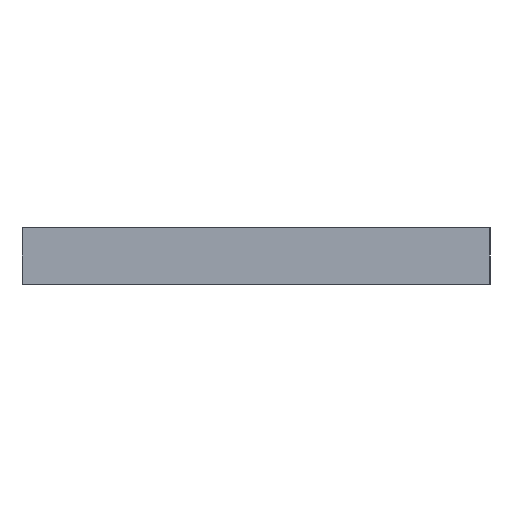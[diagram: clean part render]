
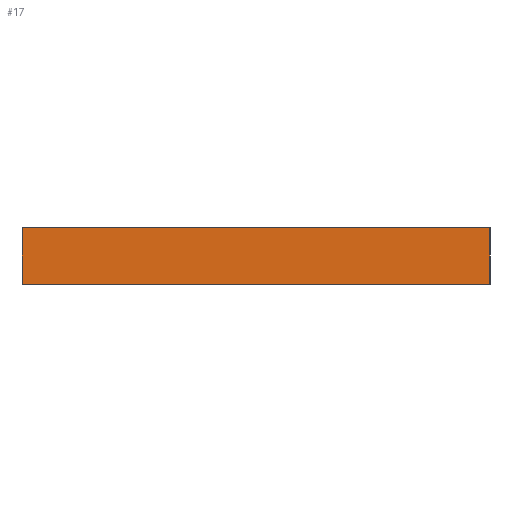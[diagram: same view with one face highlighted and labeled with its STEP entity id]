
A CAD part, left-side view. The second image highlights one B-rep face of the part: STEP entity #17.
In plain terms, the highlighted planar face has unit normal (-1, 0, 0).
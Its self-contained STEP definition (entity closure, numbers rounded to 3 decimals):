
#17 = ADVANCED_FACE('',(#18),#32,.T.);
#18 = FACE_BOUND('',#19,.T.);
#19 = EDGE_LOOP('',(#20,#55,#83,#111));
#20 = ORIENTED_EDGE('',*,*,#21,.T.);
#21 = EDGE_CURVE('',#22,#24,#26,.T.);
#22 = VERTEX_POINT('',#23);
#23 = CARTESIAN_POINT('',(8.35,19.05,0.));
#24 = VERTEX_POINT('',#25);
#25 = CARTESIAN_POINT('',(8.35,19.05,11.9));
#26 = SURFACE_CURVE('',#27,(#31,#43),.PCURVE_S1.);
#27 = LINE('',#28,#29);
#28 = CARTESIAN_POINT('',(8.35,19.05,0.));
#29 = VECTOR('',#30,1.);
#30 = DIRECTION('',(0.,0.,1.));
#31 = PCURVE('',#32,#37);
#32 = PLANE('',#33);
#33 = AXIS2_PLACEMENT_3D('',#34,#35,#36);
#34 = CARTESIAN_POINT('',(8.35,19.05,0.));
#35 = DIRECTION('',(-1.,0.,0.));
#36 = DIRECTION('',(0.,1.,0.));
#37 = DEFINITIONAL_REPRESENTATION('',(#38),#42);
#38 = LINE('',#39,#40);
#39 = CARTESIAN_POINT('',(0.,0.));
#40 = VECTOR('',#41,1.);
#41 = DIRECTION('',(0.,-1.));
#42 = ( GEOMETRIC_REPRESENTATION_CONTEXT(2) 
PARAMETRIC_REPRESENTATION_CONTEXT() REPRESENTATION_CONTEXT('2D SPACE',''
  ) );
#43 = PCURVE('',#44,#49);
#44 = PLANE('',#45);
#45 = AXIS2_PLACEMENT_3D('',#46,#47,#48);
#46 = CARTESIAN_POINT('',(134.2,19.05,0.));
#47 = DIRECTION('',(0.,-1.,0.));
#48 = DIRECTION('',(-1.,0.,0.));
#49 = DEFINITIONAL_REPRESENTATION('',(#50),#54);
#50 = LINE('',#51,#52);
#51 = CARTESIAN_POINT('',(125.85,0.));
#52 = VECTOR('',#53,1.);
#53 = DIRECTION('',(0.,-1.));
#54 = ( GEOMETRIC_REPRESENTATION_CONTEXT(2) 
PARAMETRIC_REPRESENTATION_CONTEXT() REPRESENTATION_CONTEXT('2D SPACE',''
  ) );
#55 = ORIENTED_EDGE('',*,*,#56,.T.);
#56 = EDGE_CURVE('',#24,#57,#59,.T.);
#57 = VERTEX_POINT('',#58);
#58 = CARTESIAN_POINT('',(8.35,118.2,11.9));
#59 = SURFACE_CURVE('',#60,(#64,#71),.PCURVE_S1.);
#60 = LINE('',#61,#62);
#61 = CARTESIAN_POINT('',(8.35,19.05,11.9));
#62 = VECTOR('',#63,1.);
#63 = DIRECTION('',(0.,1.,0.));
#64 = PCURVE('',#32,#65);
#65 = DEFINITIONAL_REPRESENTATION('',(#66),#70);
#66 = LINE('',#67,#68);
#67 = CARTESIAN_POINT('',(0.,-11.9));
#68 = VECTOR('',#69,1.);
#69 = DIRECTION('',(1.,0.));
#70 = ( GEOMETRIC_REPRESENTATION_CONTEXT(2) 
PARAMETRIC_REPRESENTATION_CONTEXT() REPRESENTATION_CONTEXT('2D SPACE',''
  ) );
#71 = PCURVE('',#72,#77);
#72 = PLANE('',#73);
#73 = AXIS2_PLACEMENT_3D('',#74,#75,#76);
#74 = CARTESIAN_POINT('',(80.856,70.142,11.9));
#75 = DIRECTION('',(-0.,-0.,-1.));
#76 = DIRECTION('',(-1.,0.,0.));
#77 = DEFINITIONAL_REPRESENTATION('',(#78),#82);
#78 = LINE('',#79,#80);
#79 = CARTESIAN_POINT('',(72.506,-51.092));
#80 = VECTOR('',#81,1.);
#81 = DIRECTION('',(0.,1.));
#82 = ( GEOMETRIC_REPRESENTATION_CONTEXT(2) 
PARAMETRIC_REPRESENTATION_CONTEXT() REPRESENTATION_CONTEXT('2D SPACE',''
  ) );
#83 = ORIENTED_EDGE('',*,*,#84,.F.);
#84 = EDGE_CURVE('',#85,#57,#87,.T.);
#85 = VERTEX_POINT('',#86);
#86 = CARTESIAN_POINT('',(8.35,118.2,0.));
#87 = SURFACE_CURVE('',#88,(#92,#99),.PCURVE_S1.);
#88 = LINE('',#89,#90);
#89 = CARTESIAN_POINT('',(8.35,118.2,0.));
#90 = VECTOR('',#91,1.);
#91 = DIRECTION('',(0.,0.,1.));
#92 = PCURVE('',#32,#93);
#93 = DEFINITIONAL_REPRESENTATION('',(#94),#98);
#94 = LINE('',#95,#96);
#95 = CARTESIAN_POINT('',(99.15,0.));
#96 = VECTOR('',#97,1.);
#97 = DIRECTION('',(0.,-1.));
#98 = ( GEOMETRIC_REPRESENTATION_CONTEXT(2) 
PARAMETRIC_REPRESENTATION_CONTEXT() REPRESENTATION_CONTEXT('2D SPACE',''
  ) );
#99 = PCURVE('',#100,#105);
#100 = PLANE('',#101);
#101 = AXIS2_PLACEMENT_3D('',#102,#103,#104);
#102 = CARTESIAN_POINT('',(8.35,118.2,0.));
#103 = DIRECTION('',(0.,1.,0.));
#104 = DIRECTION('',(1.,0.,0.));
#105 = DEFINITIONAL_REPRESENTATION('',(#106),#110);
#106 = LINE('',#107,#108);
#107 = CARTESIAN_POINT('',(0.,0.));
#108 = VECTOR('',#109,1.);
#109 = DIRECTION('',(0.,-1.));
#110 = ( GEOMETRIC_REPRESENTATION_CONTEXT(2) 
PARAMETRIC_REPRESENTATION_CONTEXT() REPRESENTATION_CONTEXT('2D SPACE',''
  ) );
#111 = ORIENTED_EDGE('',*,*,#112,.F.);
#112 = EDGE_CURVE('',#22,#85,#113,.T.);
#113 = SURFACE_CURVE('',#114,(#118,#125),.PCURVE_S1.);
#114 = LINE('',#115,#116);
#115 = CARTESIAN_POINT('',(8.35,19.05,0.));
#116 = VECTOR('',#117,1.);
#117 = DIRECTION('',(0.,1.,0.));
#118 = PCURVE('',#32,#119);
#119 = DEFINITIONAL_REPRESENTATION('',(#120),#124);
#120 = LINE('',#121,#122);
#121 = CARTESIAN_POINT('',(0.,0.));
#122 = VECTOR('',#123,1.);
#123 = DIRECTION('',(1.,0.));
#124 = ( GEOMETRIC_REPRESENTATION_CONTEXT(2) 
PARAMETRIC_REPRESENTATION_CONTEXT() REPRESENTATION_CONTEXT('2D SPACE',''
  ) );
#125 = PCURVE('',#126,#131);
#126 = PLANE('',#127);
#127 = AXIS2_PLACEMENT_3D('',#128,#129,#130);
#128 = CARTESIAN_POINT('',(80.856,70.142,0.));
#129 = DIRECTION('',(-0.,-0.,-1.));
#130 = DIRECTION('',(-1.,0.,0.));
#131 = DEFINITIONAL_REPRESENTATION('',(#132),#136);
#132 = LINE('',#133,#134);
#133 = CARTESIAN_POINT('',(72.506,-51.092));
#134 = VECTOR('',#135,1.);
#135 = DIRECTION('',(0.,1.));
#136 = ( GEOMETRIC_REPRESENTATION_CONTEXT(2) 
PARAMETRIC_REPRESENTATION_CONTEXT() REPRESENTATION_CONTEXT('2D SPACE',''
  ) );
